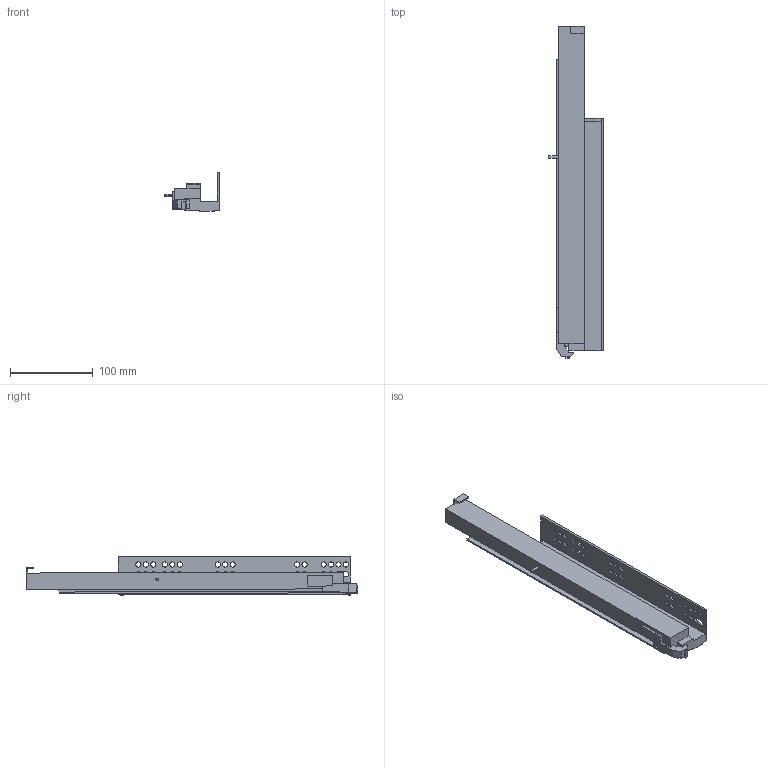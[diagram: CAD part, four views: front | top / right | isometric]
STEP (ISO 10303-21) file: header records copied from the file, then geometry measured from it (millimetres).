
FILE_DESCRIPTION (( 'STEP AP203' ), '1' );
FILE_NAME ('IMOS_Dynapro_Tipmatic_D51_NL_0_RE.STEP', '2013-03-22T12:14:00', ( 'Grass GmbH' ), ( 'Grass GmbH' ), 'SwSTEP 2.0', 'SolidWorks 2012', '' );
FILE_SCHEMA (( 'CONFIG_CONTROL_DESIGN' ));
Length unit declared in the file: millimetre
Products named in the file (1): IMOS_Dynapro_Tipmatic_D51_NL_0_RE
Bounding box: 65.92 x 401.55 x 47.53 mm (x, y, z)
Volume: 383509.8 mm3; surface area: 88994.2 mm2
Topology: 1 solids, 1 shells, 162 faces, 464 edges, 309 vertices
Faces by surface type: plane 97, cylinder 65
Entity records: 5503 total; most frequent: CARTESIAN_POINT 936, ORIENTED_EDGE 928, DIRECTION 920, EDGE_CURVE 464, VECTOR 334, LINE 334, VERTEX_POINT 309, AXIS2_PLACEMENT_3D 293
